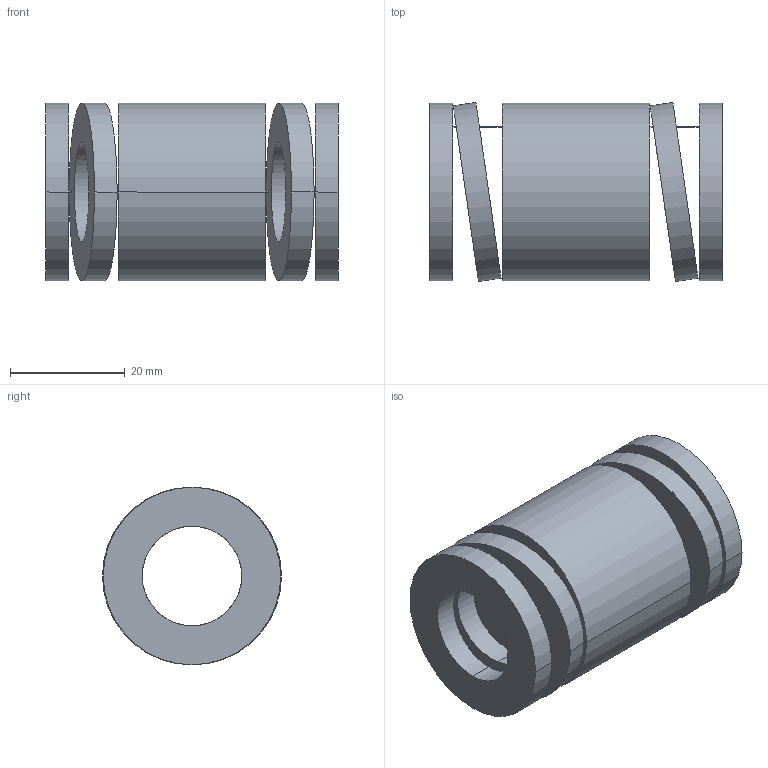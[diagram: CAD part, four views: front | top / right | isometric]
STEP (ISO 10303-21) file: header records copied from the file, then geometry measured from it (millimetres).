
FILE_DESCRIPTION(('CATIA V5 STEP Exchange'),'2;1');
FILE_NAME('C:\Users\Utente\Desktop\IO LAVORO\3D X SITO CF\X SITO\3D files 392B\392-B32-051.stp','2021-08-13T10:10:44+00:00',('none'),('none'),'CATIA Version 5 Release 20 GA (IN-10)','CATIA V5 STEP AP203','none');
FILE_SCHEMA(('CONFIG_CONTROL_DESIGN'));
Length unit declared in the file: millimetre
Products named in the file (1): 392-B32-051
Bounding box: 51 x 31.25 x 31 mm (x, y, z)
Volume: 21590.7 mm3; surface area: 11525.9 mm2
Topology: 1 solids, 1 shells, 38 faces, 92 edges, 64 vertices
Faces by surface type: cylinder 28, plane 10
Entity records: 1560 total; most frequent: CARTESIAN_POINT 667, ORIENTED_EDGE 184, DIRECTION 131, EDGE_CURVE 92, AXIS2_PLACEMENT_3D 66, VERTEX_POINT 64, EDGE_LOOP 56, ADVANCED_FACE 38
